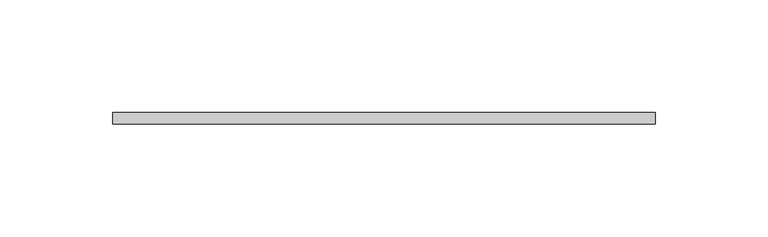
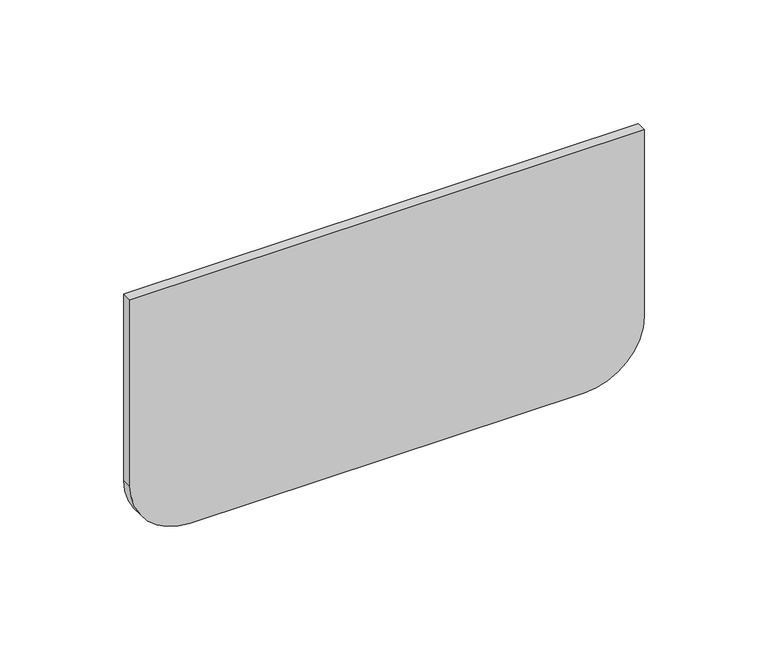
"""IFC4 building model written with IfcOpenShell, lengths in millimetres: cable carrier fitting geometry, CCT_Hyperline_FBTR-TTR Заглушка для оптического лотка : Заглушка для оптического лотка."""

import ifcopenshell
import ifcopenshell.guid

model = None  # the IFC model being written
_history = None  # IfcOwnerHistory: only IFC2X3 demands one
_inside = {}  # id of a spatial element -> (the spatial element, [elements in it])
_under = {}  # id of a project, library or spatial element -> (it, [spatial elements below it])
_declared = {}  # id of a project -> (the project, [libraries it declares])
_typed = {}  # id of a type object -> (the type object, [elements of that type])
_made_of = {}  # id of a material, layer set ... -> (it, [elements and type objects made of it])


def new_model(schema):
    """Start an empty IFC model of exactly this schema.

    Asked for "IFC4X3", IfcOpenShell would pick the latest addendum, in which some entities
    have other attributes; the version numbers below select the first issue.
    IFC2X3 requires an IfcOwnerHistory on every rooted entity: one is made here for all.
    """
    global model, _history
    if schema == "IFC4X3":
        model = ifcopenshell.file(schema_version=(4, 3, 0, 0))
    else:
        model = ifcopenshell.file(schema=schema)
    _inside.clear()
    _under.clear()
    _declared.clear()
    _typed.clear()
    _made_of.clear()
    _history = None
    if model.schema == "IFC2X3":
        org = make("IfcOrganization", Name="unknown")
        user = make(
            "IfcPersonAndOrganization",
            ThePerson=make("IfcPerson", FamilyName="unknown"),
            TheOrganization=org,
        )
        app = make(
            "IfcApplication",
            ApplicationDeveloper=org,
            Version="unknown",
            ApplicationFullName="unknown",
            ApplicationIdentifier="unknown",
        )
        _history = make(
            "IfcOwnerHistory",
            OwningUser=user,
            OwningApplication=app,
            ChangeAction="ADDED",
            CreationDate=0,
        )
    return model


def make(cls, **values):
    """One entity of the class cls with the attributes given. An attribute that is None is left unset."""
    return model.create_entity(
        cls, **{name: value for name, value in values.items() if value is not None}
    )


def rooted(cls, **values):
    """An entity with a GlobalId (a new one), such as an element, a storey or a relation."""
    return make(cls, GlobalId=ifcopenshell.guid.new(), OwnerHistory=_history, **values)


def si_unit(unit_type, name, prefix=None):
    """IfcSIUnit, for example si_unit("LENGTHUNIT", "METRE", prefix="MILLI")."""
    return make("IfcSIUnit", UnitType=unit_type, Prefix=prefix, Name=name)


def assignment(units):
    """IfcUnitAssignment: the units of a project."""
    return None if units is None else make("IfcUnitAssignment", Units=units)


def point(xyz):
    """IfcCartesianPoint."""
    return None if xyz is None else make("IfcCartesianPoint", Coordinates=xyz)


def direction(xyz):
    """IfcDirection."""
    return None if xyz is None else make("IfcDirection", DirectionRatios=xyz)


def frame(location, z_axis=None, x_axis=None):
    """IfcAxis2Placement3D, a coordinate frame: its origin and axes. An axis left out is left unset."""
    return make(
        "IfcAxis2Placement3D",
        Location=point(location),
        Axis=direction(z_axis),
        RefDirection=direction(x_axis),
    )


def frame_2d(location, x_axis=None):
    """IfcAxis2Placement2D, a coordinate frame in the plane: its origin and x axis."""
    return make(
        "IfcAxis2Placement2D", Location=point(location), RefDirection=direction(x_axis)
    )


def origin():
    """The frame at (0, 0, 0) with its axes left unset."""
    return frame((0.0, 0.0, 0.0))


def place(relative_to, where):
    """IfcLocalPlacement: puts the frame where relative to a parent placement (None: the world)."""
    return make(
        "IfcLocalPlacement", PlacementRelTo=relative_to, RelativePlacement=where
    )


def context(
    kind, dimensions, precision=None, world=None, true_north=None, identifier=None
):
    """IfcGeometricRepresentationContext, for example the 3D "Model" context."""
    return make(
        "IfcGeometricRepresentationContext",
        ContextIdentifier=identifier,
        ContextType=kind,
        CoordinateSpaceDimension=dimensions,
        Precision=precision,
        WorldCoordinateSystem=world,
        TrueNorth=true_north,
    )


def project(units=None, contexts=None):
    """IfcProject with its units and contexts."""
    return rooted(
        "IfcProject",
        Name="project",
        RepresentationContexts=contexts,
        UnitsInContext=assignment(units),
    )


def spatial(cls, under=None, at=None, **own):
    """A site, building, storey or space (cls), placed at a placement, below another one or the project."""
    s = rooted(cls, ObjectPlacement=at, **own)
    if under is not None:
        _under.setdefault(under.id(), (under, []))[1].append(s)
    return s


def polyline(points):
    """IfcPolyline through the points."""
    return make("IfcPolyline", Points=[point(p) for p in points])


def circle_curve(where, radius):
    """IfcCircle in the frame where."""
    return make("IfcCircle", Position=where, Radius=radius)


def trimmed(basis, trim1, trim2, sense, master):
    """IfcTrimmedCurve: the piece of a basis curve between two trims."""
    return make(
        "IfcTrimmedCurve",
        BasisCurve=basis,
        Trim1=trim1,
        Trim2=trim2,
        SenseAgreement=sense,
        MasterRepresentation=master,
    )


def segment(curve, same_sense, transition):
    """IfcCompositeCurveSegment."""
    return make(
        "IfcCompositeCurveSegment",
        Transition=transition,
        SameSense=same_sense,
        ParentCurve=curve,
    )


def composite_curve(segments, self_intersect=None):
    """IfcCompositeCurve: segments joined end to end."""
    return make("IfcCompositeCurve", Segments=segments, SelfIntersect=self_intersect)


def outline(outer, holes=None, kind="AREA"):
    """IfcArbitraryClosedProfileDef: a profile drawn as a closed curve; with holes, ...WithVoids."""
    if holes is None:
        return make("IfcArbitraryClosedProfileDef", ProfileType=kind, OuterCurve=outer)
    return make(
        "IfcArbitraryProfileDefWithVoids",
        ProfileType=kind,
        OuterCurve=outer,
        InnerCurves=holes,
    )


def extrude(swept, where, along, depth):
    """IfcExtrudedAreaSolid: the profile swept, set in the frame where, extruded along a direction by depth."""
    return make(
        "IfcExtrudedAreaSolid",
        SweptArea=swept,
        Position=where,
        ExtrudedDirection=direction(along),
        Depth=depth,
    )


def shape(context_of_items, identifier, shape_type, items):
    """IfcShapeRepresentation: the items that make up one representation, for example the "Body"."""
    return make(
        "IfcShapeRepresentation",
        ContextOfItems=context_of_items,
        RepresentationIdentifier=identifier,
        RepresentationType=shape_type,
        Items=items,
    )


def source(mapping_origin, context_of_items, identifier, shape_type, items):
    """IfcRepresentationMap: a shape defined once, which mapped items show again and again."""
    return make(
        "IfcRepresentationMap",
        MappingOrigin=mapping_origin,
        MappedRepresentation=shape(context_of_items, identifier, shape_type, items),
    )


def transform(
    local_origin,
    x_axis=None,
    y_axis=None,
    z_axis=None,
    scale=None,
    scale2=None,
    scale3=None,
    uniform=True,
):
    """IfcCartesianTransformationOperator3D, or its non-uniform kind. x_axis, y_axis, z_axis: its Axis1, 2, 3."""
    if uniform:
        return make(
            "IfcCartesianTransformationOperator3D",
            Axis1=direction(x_axis),
            Axis2=direction(y_axis),
            LocalOrigin=point(local_origin),
            Scale=scale,
            Axis3=direction(z_axis),
        )
    return make(
        "IfcCartesianTransformationOperator3DnonUniform",
        Axis1=direction(x_axis),
        Axis2=direction(y_axis),
        LocalOrigin=point(local_origin),
        Scale=scale,
        Axis3=direction(z_axis),
        Scale2=scale2,
        Scale3=scale3,
    )


def mapped(mapping_source, mapping_target):
    """IfcMappedItem: shows the shape of a source again, moved by a transform."""
    return make(
        "IfcMappedItem", MappingSource=mapping_source, MappingTarget=mapping_target
    )


def made_of(thing, what):
    """Note that an element or type object is made of a material, layer set ...; save() writes the relation."""
    if what is not None:
        _made_of.setdefault(what.id(), (what, []))[1].append(thing)
    return thing


def element(
    cls,
    number,
    at=None,
    inside=None,
    cuts=None,
    type_object=None,
    material=None,
    context=None,
    identifier="Body",
    shape_type=None,
    held_by="IfcProductDefinitionShape",
    body=None,
    shapes=None,
    **own,
):
    """One element of the class cls, such as IfcWall. Its Tag is "e" and its number.

    at: its placement. inside: the storey or other place that contains it. cuts: it is an
    opening in that element (IfcRelVoidsElement). A single representation is given by context,
    identifier, shape_type and body (its items); several are given by shapes. held_by: the class
    of the entity that holds the representations. save() writes the other relations.
    """
    e = rooted(cls, Tag="e%d" % number, ObjectPlacement=at, **own)
    if body is not None:
        shapes = [shape(context, identifier, shape_type, body)]
    if shapes is not None:
        e.Representation = make(held_by, Representations=shapes)
    if inside is not None:
        _inside.setdefault(inside.id(), (inside, []))[1].append(e)
    if cuts is not None:
        rooted(
            "IfcRelVoidsElement", RelatingBuildingElement=cuts, RelatedOpeningElement=e
        )
    if type_object is not None:
        _typed.setdefault(type_object.id(), (type_object, []))[1].append(e)
    return made_of(e, material)


def aggregate(whole, parts):
    """IfcRelAggregates: a whole, such as a stair, and the parts it consists of."""
    return rooted("IfcRelAggregates", RelatingObject=whole, RelatedObjects=parts)


def save(model, path):
    """Write the relations noted so far, then the file.

    IfcRelAggregates (storeys below a building ...), IfcRelContainedInSpatialStructure (elements
    in a storey), IfcRelDefinesByType, IfcRelAssociatesMaterial and IfcRelDeclares: one each for
    every whole, place, type object, material and project.
    """
    for whole, parts in _under.values():
        aggregate(whole, parts)
    for where, things in _inside.values():
        rooted(
            "IfcRelContainedInSpatialStructure",
            RelatedElements=things,
            RelatingStructure=where,
        )
    for kind, things in _typed.values():
        rooted("IfcRelDefinesByType", RelatedObjects=things, RelatingType=kind)
    for what, things in _made_of.values():
        rooted("IfcRelAssociatesMaterial", RelatedObjects=things, RelatingMaterial=what)
    for by, libraries in _declared.values():
        rooted("IfcRelDeclares", RelatingContext=by, RelatedDefinitions=libraries)
    model.write(path)


def cable_carrier_fitting_ac9cbfa4(model_context):
    return source(origin(), model_context, "Body", "SweptSolid", [
        extrude(outline(composite_curve([segment(trimmed(circle_curve(frame_2d((-32.0, -92.0)), 28.0), [point((-32.0, -120.0))], [point((-60.0, -92.0))], False, "CARTESIAN"), True, "CONTINUOUS"), segment(polyline([(-60.0, -92.0), (-60.0, 92.0)]), True, "CONTINUOUS"), segment(trimmed(circle_curve(frame_2d((-32.0, 92.0)), 28.0), [point((-60.0, 92.0))], [point((-32.0, 120.0))], False, "CARTESIAN"), True, "CONTINUOUS"), segment(polyline([(-32.0, 120.0), (60.0, 120.0), (60.0, -120.0), (-32.0, -120.0)]), True, "CONTINUOUS")], self_intersect=False)), frame((0.0, -2.5, 0.0), z_axis=(0.0, 1.0, 0.0), x_axis=(0.0, 0.0, 1.0)), (0.0, 0.0, 1.0), 5.0),
    ])


if __name__ == "__main__":
    model = new_model("IFC4")
    model_context = context("Model", 3, world=origin())
    ifc_project = project(units=[si_unit("LENGTHUNIT", "METRE", prefix="MILLI")], contexts=[model_context])
    site = spatial("IfcSite", under=ifc_project)
    building = spatial("IfcBuilding", under=site)
    placement = place(None, origin())
    cable_carrier_fitting_shape = cable_carrier_fitting_ac9cbfa4(model_context)
    element("IfcCableCarrierFitting", 1, ObjectType="CCT_Hyperline_FBTR-TTR Заглушка для оптического лотка : Заглушка для оптического лотка", at=placement, inside=building, context=model_context, shape_type="MappedRepresentation", body=[
        mapped(cable_carrier_fitting_shape, transform((0.0, 0.0, 0.0), x_axis=(1.0, 0.0, 0.0), y_axis=(0.0, 1.0, 0.0), z_axis=(0.0, 0.0, 1.0))),
    ])
    save(model, "model.ifc")
